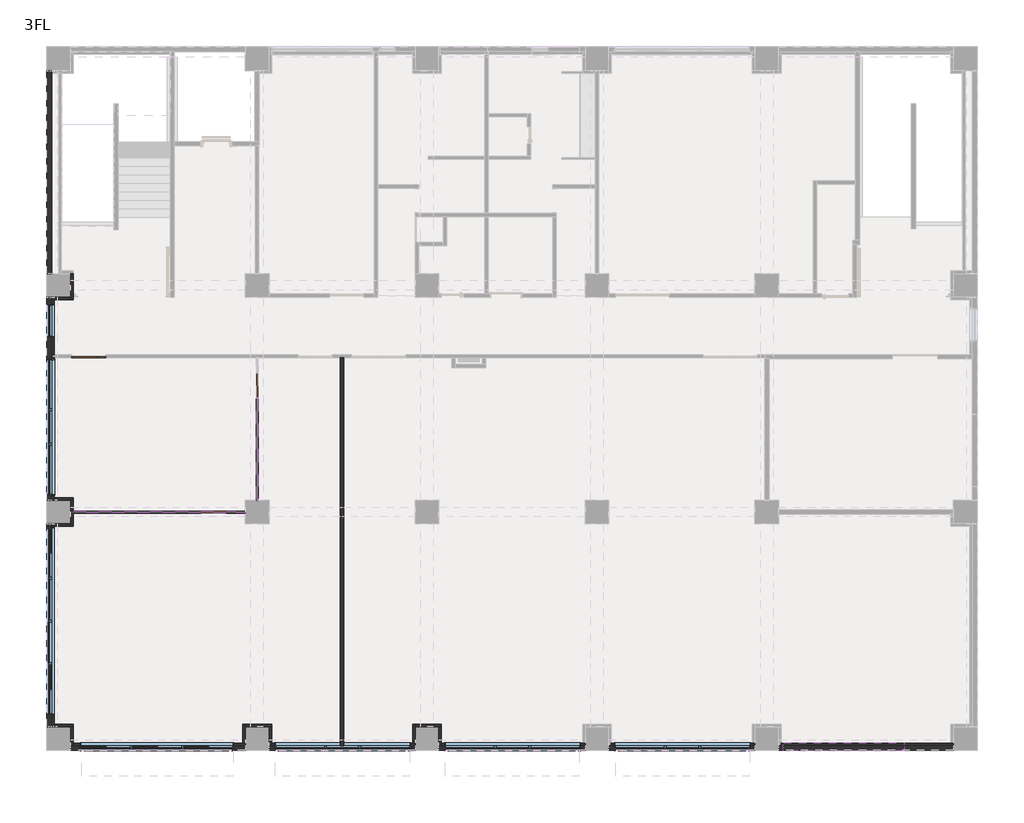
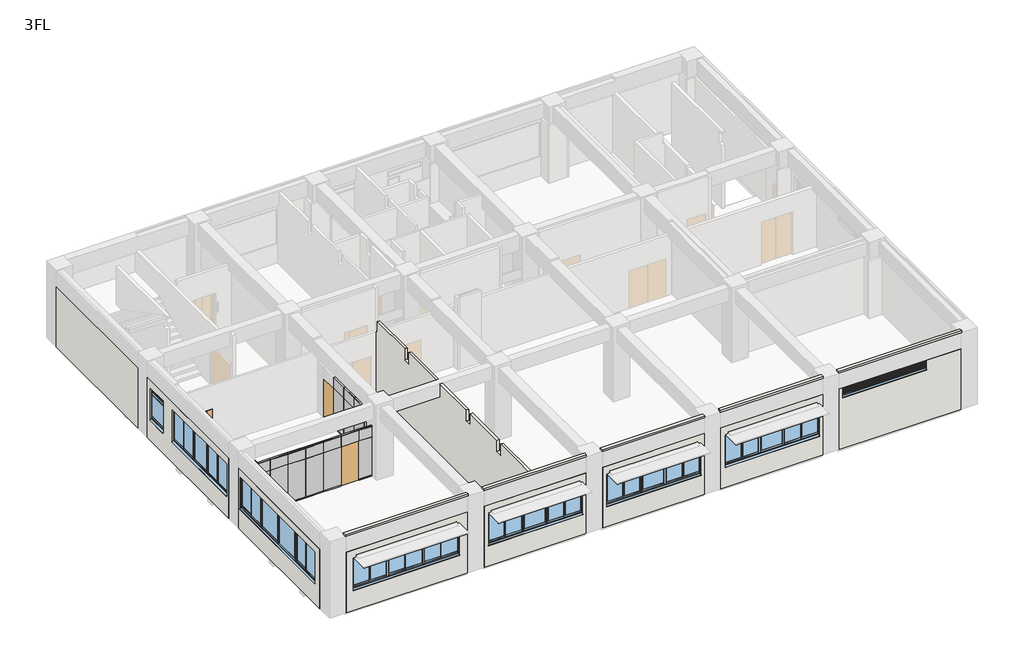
# One storey, part 1 of 6: 23 walls, 21 plates, 8 windows, 3 doors, 2 members.
"""IFC4 building model written with IfcOpenShell, lengths in millimetres."""

from ifc_helpers import new_model, si_unit, frame, origin, place, context, project, spatial, polyline, outline, extrude, faceted_brep, transform, mapped, element, save
from components import door_18b0804b, pt1_1e1990d0, pt7_9d475353, member_b4131282, member_8fee23aa, plate_bac15c8e, plate_f3b27fee, plate_b9e99dd6, plate_7cd72466, plate_84f50978, plate_53a28b3e, ag_02_89f51cda, aw1_359d20a0, aw2_52e0dac3, aw3_6590dba5, aw6a_3e550bbd

model = new_model("IFC4")

# Units and contexts
model_context = context("Model", 3, world=origin())
ifc_project = project(units=[si_unit("LENGTHUNIT", "METRE", prefix="MILLI")], contexts=[model_context])

# Site, building, storey
site = spatial("IfcSite", under=ifc_project)
building = spatial("IfcBuilding", under=site)
storey = spatial("IfcBuildingStorey", under=building, Name="3FL", Elevation=8200.0)

# Doors
placement = place(None, origin())
door_shape = door_18b0804b(model_context)
element("IfcDoor", 1, ObjectType="営_親子扉 : LD2 1200*2000", at=placement, inside=storey, context=model_context, shape_type="MappedRepresentation", body=[
    mapped(door_shape, transform((1055.0, 13500.0, 8200.0), x_axis=(-1.0, 0.0, 0.0), y_axis=(0.0, -1.0, 0.0), z_axis=(0.0, 0.0, 1.0))),
])
pt1_shape = pt1_1e1990d0(model_context)
element("IfcDoor", 2, ObjectType="営_パーティションドア : PT6", at=placement, inside=storey, context=model_context, shape_type="MappedRepresentation", body=[
    mapped(pt1_shape, transform((5460.0000003, 8000.0, 8200.0), x_axis=(-1.0, 0.0, 0.0), y_axis=(0.0, -1.0, 0.0), z_axis=(0.0, 0.0, 1.0))),
])
pt7_shape = pt7_9d475353(model_context)
element("IfcDoor", 3, ObjectType="営_パーティションドア : PT7", at=placement, inside=storey, context=model_context, shape_type="MappedRepresentation", body=[
    mapped(pt7_shape, transform((7000.0, 12460.0000003, 8200.0), x_axis=(0.0, -1.0, 0.0), y_axis=(1.0, 0.0, 0.0), z_axis=(0.0, 0.0, 1.0))),
])

# Members
member_shape = member_b4131282(model_context)
element("IfcMember", 4, ObjectType="長方形マリオン : 70*70", at=placement, inside=storey, context=model_context, shape_type="MappedRepresentation", body=[
    mapped(member_shape, transform((7000.0, 8420.0, 10300.0), x_axis=(0.0, -1.0, 0.0), y_axis=(1.0, 0.0, 0.0), z_axis=(0.0, 0.0, 1.0))),
])
member_2_shape = member_8fee23aa(model_context)
element("IfcMember", 5, ObjectType="長方形マリオン : 70*70", at=placement, inside=storey, context=model_context, shape_type="MappedRepresentation", body=[
    mapped(member_2_shape, transform((7000.0, 8420.0, 10900.0), x_axis=(0.0, -1.0, 0.0), y_axis=(1.0, 0.0, 0.0), z_axis=(0.0, 0.0, 1.0))),
])

# Plates
plate_shape = plate_bac15c8e(model_context)
element("IfcPlate", 6, ObjectType="営_パーティションパネル_下部 : パーティションパネル_下部", at=placement, inside=storey, context=model_context, shape_type="MappedRepresentation", body=[
    mapped(plate_shape, transform((6245.0000002, 8000.0, 8200.0), x_axis=(1.0, 0.0, 0.0), y_axis=(0.0, 1.0, 0.0), z_axis=(0.0, 0.0, 1.0))),
])
plate_2_shape = plate_f3b27fee(model_context)
element("IfcPlate", 7, ObjectType="営_パーティションパネル_上部 : パーティションパネル_上部", at=placement, inside=storey, context=model_context, shape_type="MappedRepresentation", body=[
    mapped(plate_2_shape, transform((6245.0000002, 8000.0, 10300.0), x_axis=(1.0, 0.0, 0.0), y_axis=(0.0, 1.0, 0.0), z_axis=(0.0, 0.0, 1.0))),
])
plate_3_shape = plate_b9e99dd6(model_context)
element("IfcPlate", 8, ObjectType="営_パーティションパネル_下部 : パーティションパネル_下部", at=placement, inside=storey, context=model_context, shape_type="MappedRepresentation", body=[
    mapped(plate_3_shape, transform((7000.0, 8900.0000002, 8200.0), x_axis=(0.0, 1.0, 0.0), y_axis=(-1.0, 0.0, 0.0), z_axis=(0.0, 0.0, 1.0))),
])
plate_4_shape = plate_7cd72466(model_context)
element("IfcPlate", 9, ObjectType="営_パーティションパネル_上部 : パーティションパネル_上部", at=placement, inside=storey, context=model_context, shape_type="MappedRepresentation", body=[
    mapped(plate_4_shape, transform((7000.0, 8900.0000002, 10300.0), x_axis=(0.0, 1.0, 0.0), y_axis=(-1.0, 0.0, 0.0), z_axis=(0.0, 0.0, 1.0))),
])
plate_5_shape = plate_84f50978(model_context)
element("IfcPlate", 10, ObjectType="営_パーティションパネル_下部 : パーティションパネル_下部", at=placement, inside=storey, context=model_context, shape_type="MappedRepresentation", body=[
    mapped(plate_5_shape, transform((960.0000002, 8000.0, 8200.0), x_axis=(1.0, 0.0, 0.0), y_axis=(0.0, 1.0, 0.0), z_axis=(0.0, 0.0, 1.0))),
])
element("IfcPlate", 11, ObjectType="営_パーティションパネル_下部 : パーティションパネル_下部", at=placement, inside=storey, context=model_context, shape_type="MappedRepresentation", body=[
    mapped(plate_5_shape, transform((1860.0000003, 8000.0, 8200.0), x_axis=(1.0, 0.0, 0.0), y_axis=(0.0, 1.0, 0.0), z_axis=(0.0, 0.0, 1.0))),
])
element("IfcPlate", 12, ObjectType="営_パーティションパネル_下部 : パーティションパネル_下部", at=placement, inside=storey, context=model_context, shape_type="MappedRepresentation", body=[
    mapped(plate_5_shape, transform((2760.0000003, 8000.0, 8200.0), x_axis=(1.0, 0.0, 0.0), y_axis=(0.0, 1.0, 0.0), z_axis=(0.0, 0.0, 1.0))),
])
element("IfcPlate", 13, ObjectType="営_パーティションパネル_下部 : パーティションパネル_下部", at=placement, inside=storey, context=model_context, shape_type="MappedRepresentation", body=[
    mapped(plate_5_shape, transform((3660.0000003, 8000.0, 8200.0), x_axis=(1.0, 0.0, 0.0), y_axis=(0.0, 1.0, 0.0), z_axis=(0.0, 0.0, 1.0))),
])
element("IfcPlate", 14, ObjectType="営_パーティションパネル_下部 : パーティションパネル_下部", at=placement, inside=storey, context=model_context, shape_type="MappedRepresentation", body=[
    mapped(plate_5_shape, transform((4560.0000003, 8000.0, 8200.0), x_axis=(1.0, 0.0, 0.0), y_axis=(0.0, 1.0, 0.0), z_axis=(0.0, 0.0, 1.0))),
])
element("IfcPlate", 15, ObjectType="営_パーティションパネル_下部 : パーティションパネル_下部", at=placement, inside=storey, context=model_context, shape_type="MappedRepresentation", body=[
    mapped(plate_5_shape, transform((7000.0, 9760.0000003, 8200.0), x_axis=(0.0, 1.0, 0.0), y_axis=(-1.0, 0.0, 0.0), z_axis=(0.0, 0.0, 1.0))),
])
element("IfcPlate", 16, ObjectType="営_パーティションパネル_下部 : パーティションパネル_下部", at=placement, inside=storey, context=model_context, shape_type="MappedRepresentation", body=[
    mapped(plate_5_shape, transform((7000.0, 10660.0000003, 8200.0), x_axis=(0.0, 1.0, 0.0), y_axis=(-1.0, 0.0, 0.0), z_axis=(0.0, 0.0, 1.0))),
])
element("IfcPlate", 17, ObjectType="営_パーティションパネル_下部 : パーティションパネル_下部", at=placement, inside=storey, context=model_context, shape_type="MappedRepresentation", body=[
    mapped(plate_5_shape, transform((7000.0, 11560.0000003, 8200.0), x_axis=(0.0, 1.0, 0.0), y_axis=(-1.0, 0.0, 0.0), z_axis=(0.0, 0.0, 1.0))),
])
plate_6_shape = plate_53a28b3e(model_context)
element("IfcPlate", 18, ObjectType="営_パーティションパネル_上部 : パーティションパネル_上部", at=placement, inside=storey, context=model_context, shape_type="MappedRepresentation", body=[
    mapped(plate_6_shape, transform((960.0000002, 8000.0, 10300.0), x_axis=(1.0, 0.0, 0.0), y_axis=(0.0, 1.0, 0.0), z_axis=(0.0, 0.0, 1.0))),
])
element("IfcPlate", 19, ObjectType="営_パーティションパネル_上部 : パーティションパネル_上部", at=placement, inside=storey, context=model_context, shape_type="MappedRepresentation", body=[
    mapped(plate_6_shape, transform((1860.0000003, 8000.0, 10300.0), x_axis=(1.0, 0.0, 0.0), y_axis=(0.0, 1.0, 0.0), z_axis=(0.0, 0.0, 1.0))),
])
element("IfcPlate", 20, ObjectType="営_パーティションパネル_上部 : パーティションパネル_上部", at=placement, inside=storey, context=model_context, shape_type="MappedRepresentation", body=[
    mapped(plate_6_shape, transform((2760.0000003, 8000.0, 10300.0), x_axis=(1.0, 0.0, 0.0), y_axis=(0.0, 1.0, 0.0), z_axis=(0.0, 0.0, 1.0))),
])
element("IfcPlate", 21, ObjectType="営_パーティションパネル_上部 : パーティションパネル_上部", at=placement, inside=storey, context=model_context, shape_type="MappedRepresentation", body=[
    mapped(plate_6_shape, transform((3660.0000003, 8000.0, 10300.0), x_axis=(1.0, 0.0, 0.0), y_axis=(0.0, 1.0, 0.0), z_axis=(0.0, 0.0, 1.0))),
])
element("IfcPlate", 22, ObjectType="営_パーティションパネル_上部 : パーティションパネル_上部", at=placement, inside=storey, context=model_context, shape_type="MappedRepresentation", body=[
    mapped(plate_6_shape, transform((4560.0000003, 8000.0, 10300.0), x_axis=(1.0, 0.0, 0.0), y_axis=(0.0, 1.0, 0.0), z_axis=(0.0, 0.0, 1.0))),
])
element("IfcPlate", 23, ObjectType="営_パーティションパネル_上部 : パーティションパネル_上部", at=placement, inside=storey, context=model_context, shape_type="MappedRepresentation", body=[
    mapped(plate_6_shape, transform((5460.0000003, 8000.0, 10300.0), x_axis=(1.0, 0.0, 0.0), y_axis=(0.0, 1.0, 0.0), z_axis=(0.0, 0.0, 1.0))),
])
element("IfcPlate", 24, ObjectType="営_パーティションパネル_上部 : パーティションパネル_上部", at=placement, inside=storey, context=model_context, shape_type="MappedRepresentation", body=[
    mapped(plate_6_shape, transform((7000.0, 9760.0000003, 10300.0), x_axis=(0.0, 1.0, 0.0), y_axis=(-1.0, 0.0, 0.0), z_axis=(0.0, 0.0, 1.0))),
])
element("IfcPlate", 25, ObjectType="営_パーティションパネル_上部 : パーティションパネル_上部", at=placement, inside=storey, context=model_context, shape_type="MappedRepresentation", body=[
    mapped(plate_6_shape, transform((7000.0, 10660.0000003, 10300.0), x_axis=(0.0, 1.0, 0.0), y_axis=(-1.0, 0.0, 0.0), z_axis=(0.0, 0.0, 1.0))),
])
element("IfcPlate", 26, ObjectType="営_パーティションパネル_上部 : パーティションパネル_上部", at=placement, inside=storey, context=model_context, shape_type="MappedRepresentation", body=[
    mapped(plate_6_shape, transform((7000.0, 11560.0000003, 10300.0), x_axis=(0.0, 1.0, 0.0), y_axis=(-1.0, 0.0, 0.0), z_axis=(0.0, 0.0, 1.0))),
])

# Walls
element("IfcWall", 27, ObjectType="(外壁)RC150+20", at=placement, inside=storey, context=model_context, shape_type="Brep", body=[
    faceted_brep([(-250.0, 7580.0, 11300.0), (-250.0, 420.0, 11300.0), (-250.0, 420.0, 8100.0), (-250.0, 7580.0, 8100.0), (-250.0, 7465.0, 10920.0), (-250.0, 7465.0, 9265.0), (-250.0, 835.0, 9265.0), (-250.0, 835.0, 10920.0), (-420.0, 420.0, 11300.0), (-420.0, 7580.0, 11300.0), (-420.0, 7580.0, 8100.0), (-420.0, 420.0, 8100.0), (-420.0, 865.0, 9175.0), (-420.0, 7435.0, 9175.0), (-420.0, 7435.0, 10895.0), (-420.0, 865.0, 10895.0), (-335.0, 420.0, 8100.0), (-335.0, 7580.0, 8100.0), (-260.0, 7465.0, 10920.0), (-260.0, 7465.0, 9265.0), (-260.0, 835.0, 9265.0), (-260.0, 835.0, 10920.0), (-260.0, 7455.0, 9265.0), (-260.0, 845.0, 9265.0), (-260.0, 845.0, 10915.0), (-260.0, 7455.0, 10915.0), (-360.0, 7455.0, 10915.0), (-360.0, 7455.0, 9182.5), (-260.0, 7455.0, 9195.0), (-260.0, 845.0, 9195.0), (-360.0, 845.0, 9182.5), (-360.0, 845.0, 10915.0), (-360.0, 7435.0, 9182.5), (-360.0, 865.0, 9182.5), (-360.0, 865.0, 10895.0), (-360.0, 7435.0, 10895.0)], [[[0, 1, 2, 3], [4, 5, 6, 7]], [[8, 9, 10, 11], [12, 13, 14, 15]], [[2, 16, 11, 10, 17, 3]], [[18, 19, 5, 4]], [[20, 21, 7, 6]], [[5, 19, 22, 23, 20, 6]], [[19, 18, 21, 20, 23, 24, 25, 22]], [[18, 4, 7, 21]], [[22, 25, 26, 27, 28]], [[24, 23, 29, 30, 31]], [[28, 27, 32, 13, 12, 33, 30, 29]], [[27, 26, 31, 30, 33, 34, 35, 32]], [[25, 24, 31, 26]], [[23, 22, 28, 29]], [[13, 32, 35, 14]], [[33, 12, 15, 34]], [[35, 34, 15, 14]], [[11, 16, 2, 1, 8]], [[3, 17, 10, 9, 0]], [[1, 0, 9, 8]]]),
    faceted_brep([(-250.0, 15580.0, 11300.0), (-250.0, 8420.0, 11300.0), (-250.0, 8420.0, 8100.0), (-250.0, 15580.0, 8100.0), (-250.0, 13410.0, 10920.0), (-250.0, 13410.0, 9265.0), (-250.0, 8590.0, 9265.0), (-250.0, 8590.0, 10920.0), (-250.0, 15345.0, 10920.0), (-250.0, 15345.0, 9265.0), (-250.0, 14165.0, 9265.0), (-250.0, 14165.0, 10920.0), (-420.0, 8420.0, 11300.0), (-420.0, 15580.0, 11300.0), (-420.0, 15580.0, 8100.0), (-420.0, 8420.0, 8100.0), (-420.0, 8620.0, 9175.0), (-420.0, 13380.0, 9175.0), (-420.0, 13380.0, 10895.0), (-420.0, 8620.0, 10895.0), (-420.0, 14195.0, 9175.0), (-420.0, 15315.0, 9175.0), (-420.0, 15315.0, 10895.0), (-420.0, 14195.0, 10895.0), (-335.0, 8420.0, 8100.0), (-325.0, 15580.0, 8100.0), (-260.0, 13410.0, 10920.0), (-260.0, 13410.0, 9265.0), (-260.0, 8590.0, 9265.0), (-260.0, 8590.0, 10920.0), (-260.0, 13400.0, 9265.0), (-260.0, 8600.0, 9265.0), (-260.0, 8600.0, 10915.0), (-260.0, 13400.0, 10915.0), (-360.0, 13400.0, 10915.0), (-360.0, 13400.0, 9182.5), (-260.0, 13400.0, 9195.0), (-260.0, 8600.0, 9195.0), (-360.0, 8600.0, 9182.5), (-360.0, 8600.0, 10915.0), (-360.0, 13380.0, 9182.5), (-360.0, 8620.0, 9182.5), (-360.0, 8620.0, 10895.0), (-360.0, 13380.0, 10895.0), (-260.0, 15345.0, 10920.0), (-260.0, 15345.0, 9265.0), (-260.0, 14165.0, 9265.0), (-260.0, 14165.0, 10920.0), (-260.0, 15335.0, 9265.0), (-260.0, 14175.0, 9265.0), (-260.0, 14175.0, 10915.0), (-260.0, 15335.0, 10915.0), (-360.0, 15335.0, 10915.0), (-360.0, 15335.0, 9182.5), (-260.0, 15335.0, 9195.0), (-260.0, 14175.0, 9195.0), (-360.0, 14175.0, 9182.5), (-360.0, 14175.0, 10915.0), (-360.0, 15315.0, 9182.5), (-360.0, 14195.0, 9182.5), (-360.0, 14195.0, 10895.0), (-360.0, 15315.0, 10895.0)], [[[0, 1, 2, 3], [4, 5, 6, 7], [8, 9, 10, 11]], [[12, 13, 14, 15], [16, 17, 18, 19], [20, 21, 22, 23]], [[2, 24, 15, 14, 25, 3]], [[26, 27, 5, 4]], [[28, 29, 7, 6]], [[5, 27, 30, 31, 28, 6]], [[27, 26, 29, 28, 31, 32, 33, 30]], [[26, 4, 7, 29]], [[30, 33, 34, 35, 36]], [[32, 31, 37, 38, 39]], [[36, 35, 40, 17, 16, 41, 38, 37]], [[35, 34, 39, 38, 41, 42, 43, 40]], [[33, 32, 39, 34]], [[31, 30, 36, 37]], [[17, 40, 43, 18]], [[41, 16, 19, 42]], [[43, 42, 19, 18]], [[44, 45, 9, 8]], [[46, 47, 11, 10]], [[9, 45, 48, 49, 46, 10]], [[45, 44, 47, 46, 49, 50, 51, 48]], [[44, 8, 11, 47]], [[48, 51, 52, 53, 54]], [[50, 49, 55, 56, 57]], [[54, 53, 58, 21, 20, 59, 56, 55]], [[53, 52, 57, 56, 59, 60, 61, 58]], [[51, 50, 57, 52]], [[49, 48, 54, 55]], [[21, 58, 61, 22]], [[59, 20, 23, 60]], [[61, 60, 23, 22]], [[15, 24, 2, 1, 12]], [[3, 25, 14, 13, 0]], [[1, 0, 13, 12]]]),
    faceted_brep([(-250.0, 16420.0, 8100.0), (-250.0, 23580.0, 8100.0), (-250.0, 23580.0, 11300.0), (-250.0, 16420.0, 11300.0), (-420.0, 23580.0, 8100.0), (-420.0, 16420.0, 8100.0), (-420.0, 16420.0, 11300.0), (-420.0, 23580.0, 11300.0), (-325.0, 16420.0, 8100.0), (-325.0, 23580.0, 8100.0)], [[[0, 1, 2, 3]], [[4, 5, 6, 7]], [[0, 8, 5, 4, 9, 1]], [[5, 8, 0, 3, 6]], [[1, 9, 4, 7, 2]], [[3, 2, 7, 6]]]),
])
element("IfcWall", 28, ObjectType="(外壁)RC150+20", at=placement, inside=storey, context=model_context, shape_type="Brep", body=[
    faceted_brep([(420.0, -250.0, 11350.0), (6580.0, -250.0, 11350.0), (6580.0, -250.0, 8100.0), (420.0, -250.0, 8100.0), (752.5, -250.0, 10920.0), (752.5, -250.0, 9265.0), (6177.5, -250.0, 9265.0), (6177.5, -250.0, 10920.0), (6580.0, -420.0, 11350.0), (420.0, -420.0, 11350.0), (420.0, -420.0, 8100.0), (6580.0, -420.0, 8100.0), (6147.5, -420.0, 9175.0), (782.5, -420.0, 9175.0), (782.5, -420.0, 10895.0), (6147.5, -420.0, 10895.0), (6580.0, -325.0, 8100.0), (420.0, -325.0, 8100.0), (752.5, -260.0, 10920.0), (752.5, -260.0, 9265.0), (6177.5, -260.0, 9265.0), (6177.5, -260.0, 10920.0), (762.5, -260.0, 9265.0), (6167.5, -260.0, 9265.0), (6167.5, -260.0, 10915.0), (762.5, -260.0, 10915.0), (762.5, -360.0, 10915.0), (762.5, -360.0, 9182.5), (762.5, -260.0, 9195.0), (6167.5, -260.0, 9195.0), (6167.5, -360.0, 9182.5), (6167.5, -360.0, 10915.0), (782.5, -360.0, 9182.5), (6147.5, -360.0, 9182.5), (6147.5, -360.0, 10895.0), (782.5, -360.0, 10895.0)], [[[0, 1, 2, 3], [4, 5, 6, 7]], [[8, 9, 10, 11], [12, 13, 14, 15]], [[2, 16, 11, 10, 17, 3]], [[18, 19, 5, 4]], [[20, 21, 7, 6]], [[5, 19, 22, 23, 20, 6]], [[19, 18, 21, 20, 23, 24, 25, 22]], [[18, 4, 7, 21]], [[22, 25, 26, 27, 28]], [[24, 23, 29, 30, 31]], [[28, 27, 32, 13, 12, 33, 30, 29]], [[27, 26, 31, 30, 33, 34, 35, 32]], [[25, 24, 31, 26]], [[23, 22, 28, 29]], [[13, 32, 35, 14]], [[33, 12, 15, 34]], [[35, 34, 15, 14]], [[11, 16, 2, 1, 8]], [[3, 17, 10, 9, 0]], [[1, 0, 9, 8]]]),
    faceted_brep([(7420.0, -250.0, 11350.0), (12580.0, -250.0, 11350.0), (12580.0, -250.0, 8100.0), (7420.0, -250.0, 8100.0), (7610.0, -250.0, 10920.0), (7610.0, -250.0, 9265.0), (12430.0, -250.0, 9265.0), (12430.0, -250.0, 10920.0), (12580.0, -420.0, 11350.0), (7420.0, -420.0, 11350.0), (7420.0, -420.0, 8100.0), (12580.0, -420.0, 8100.0), (12400.0, -420.0, 9175.0), (7640.0, -420.0, 9175.0), (7640.0, -420.0, 10895.0), (12400.0, -420.0, 10895.0), (7420.0, -325.0, 8100.0), (12580.0, -325.0, 8100.0), (7610.0, -260.0, 10920.0), (7610.0, -260.0, 9265.0), (12430.0, -260.0, 9265.0), (12430.0, -260.0, 10920.0), (7620.0, -260.0, 9265.0), (12420.0, -260.0, 9265.0), (12420.0, -260.0, 10915.0), (7620.0, -260.0, 10915.0), (7620.0, -360.0, 10915.0), (7620.0, -360.0, 9182.5), (7620.0, -260.0, 9195.0), (12420.0, -260.0, 9195.0), (12420.0, -360.0, 9182.5), (12420.0, -360.0, 10915.0), (7640.0, -360.0, 9182.5), (12400.0, -360.0, 9182.5), (12400.0, -360.0, 10895.0), (7640.0, -360.0, 10895.0)], [[[0, 1, 2, 3], [4, 5, 6, 7]], [[8, 9, 10, 11], [12, 13, 14, 15]], [[10, 16, 3, 2, 17, 11]], [[3, 16, 10, 9, 0]], [[11, 17, 2, 1, 8]], [[1, 0, 9, 8]], [[18, 19, 5, 4]], [[20, 21, 7, 6]], [[5, 19, 22, 23, 20, 6]], [[19, 18, 21, 20, 23, 24, 25, 22]], [[18, 4, 7, 21]], [[22, 25, 26, 27, 28]], [[24, 23, 29, 30, 31]], [[28, 27, 32, 13, 12, 33, 30, 29]], [[27, 26, 31, 30, 33, 34, 35, 32]], [[25, 24, 31, 26]], [[23, 22, 28, 29]], [[13, 32, 35, 14]], [[33, 12, 15, 34]], [[35, 34, 15, 14]]]),
    faceted_brep([(13420.0, -250.0, 11350.0), (18580.0, -250.0, 11350.0), (18580.0, -250.0, 8100.0), (13420.0, -250.0, 8100.0), (13610.0, -250.0, 10920.0), (13610.0, -250.0, 9265.0), (18430.0, -250.0, 9265.0), (18430.0, -250.0, 10920.0), (18580.0, -420.0, 11350.0), (13420.0, -420.0, 11350.0), (13420.0, -420.0, 8100.0), (18580.0, -420.0, 8100.0), (18400.0, -420.0, 9175.0), (13640.0, -420.0, 9175.0), (13640.0, -420.0, 10895.0), (18400.0, -420.0, 10895.0), (13420.0, -325.0, 8100.0), (18580.0, -325.0, 8100.0), (13610.0, -260.0, 10920.0), (13610.0, -260.0, 9265.0), (18430.0, -260.0, 9265.0), (18430.0, -260.0, 10920.0), (13620.0, -260.0, 9265.0), (18420.0, -260.0, 9265.0), (18420.0, -260.0, 10915.0), (13620.0, -260.0, 10915.0), (13620.0, -360.0, 10915.0), (13620.0, -360.0, 9182.5), (13620.0, -260.0, 9195.0), (18420.0, -260.0, 9195.0), (18420.0, -360.0, 9182.5), (18420.0, -360.0, 10915.0), (13640.0, -360.0, 9182.5), (18400.0, -360.0, 9182.5), (18400.0, -360.0, 10895.0), (13640.0, -360.0, 10895.0)], [[[0, 1, 2, 3], [4, 5, 6, 7]], [[8, 9, 10, 11], [12, 13, 14, 15]], [[10, 16, 3, 2, 17, 11]], [[3, 16, 10, 9, 0]], [[11, 17, 2, 1, 8]], [[1, 0, 9, 8]], [[18, 19, 5, 4]], [[20, 21, 7, 6]], [[5, 19, 22, 23, 20, 6]], [[19, 18, 21, 20, 23, 24, 25, 22]], [[18, 4, 7, 21]], [[22, 25, 26, 27, 28]], [[24, 23, 29, 30, 31]], [[28, 27, 32, 13, 12, 33, 30, 29]], [[27, 26, 31, 30, 33, 34, 35, 32]], [[25, 24, 31, 26]], [[23, 22, 28, 29]], [[13, 32, 35, 14]], [[33, 12, 15, 34]], [[35, 34, 15, 14]]]),
    faceted_brep([(19420.0, -250.0, 11350.0), (24580.0, -250.0, 11350.0), (24580.0, -250.0, 8100.0), (19420.0, -250.0, 8100.0), (19610.0, -250.0, 10920.0), (19610.0, -250.0, 9265.0), (24430.0, -250.0, 9265.0), (24430.0, -250.0, 10920.0), (24580.0, -420.0, 11350.0), (19420.0, -420.0, 11350.0), (19420.0, -420.0, 8100.0), (24580.0, -420.0, 8100.0), (24400.0, -420.0, 9175.0), (19640.0, -420.0, 9175.0), (19640.0, -420.0, 10895.0), (24400.0, -420.0, 10895.0), (19420.0, -325.0, 8100.0), (24580.0, -325.0, 8100.0), (19610.0, -260.0, 10920.0), (19610.0, -260.0, 9265.0), (24430.0, -260.0, 9265.0), (24430.0, -260.0, 10920.0), (19620.0, -260.0, 9265.0), (24420.0, -260.0, 9265.0), (24420.0, -260.0, 10915.0), (19620.0, -260.0, 10915.0), (19620.0, -360.0, 10915.0), (19620.0, -360.0, 9182.5), (19620.0, -260.0, 9195.0), (24420.0, -260.0, 9195.0), (24420.0, -360.0, 9182.5), (24420.0, -360.0, 10915.0), (19640.0, -360.0, 9182.5), (24400.0, -360.0, 9182.5), (24400.0, -360.0, 10895.0), (19640.0, -360.0, 10895.0)], [[[0, 1, 2, 3], [4, 5, 6, 7]], [[8, 9, 10, 11], [12, 13, 14, 15]], [[10, 16, 3, 2, 17, 11]], [[18, 19, 5, 4]], [[20, 21, 7, 6]], [[5, 19, 22, 23, 20, 6]], [[19, 18, 21, 20, 23, 24, 25, 22]], [[18, 4, 7, 21]], [[22, 25, 26, 27, 28]], [[24, 23, 29, 30, 31]], [[28, 27, 32, 13, 12, 33, 30, 29]], [[27, 26, 31, 30, 33, 34, 35, 32]], [[25, 24, 31, 26]], [[23, 22, 28, 29]], [[13, 32, 35, 14]], [[33, 12, 15, 34]], [[35, 34, 15, 14]], [[3, 16, 10, 9, 0]], [[11, 17, 2, 1, 8]], [[1, 0, 9, 8]]]),
    faceted_brep([(25420.0, -250.0, 11350.0), (31580.0, -250.0, 11350.0), (31580.0, -250.0, 8100.0), (25420.0, -250.0, 8100.0), (25572.7, -250.0, 11335.0), (25572.7, -250.0, 10915.0), (29852.7, -250.0, 10915.0), (29852.7, -250.0, 11335.0), (31580.0, -420.0, 11350.0), (25420.0, -420.0, 11350.0), (25420.0, -420.0, 8100.0), (31580.0, -420.0, 8100.0), (29822.7, -420.0, 10825.0), (25602.7, -420.0, 10825.0), (25602.7, -420.0, 11310.0), (29822.7, -420.0, 11310.0), (25420.0, -325.0, 8100.0), (31580.0, -325.0, 8100.0), (25572.7, -290.0, 11335.0), (25572.7, -290.0, 10915.0), (29852.7, -290.0, 10915.0), (29852.7, -290.0, 11335.0), (25582.7, -290.0, 10915.0), (29842.7, -290.0, 10915.0), (29842.7, -290.0, 11330.0), (25582.7, -290.0, 11330.0), (25582.7, -360.0, 11330.0), (25582.7, -360.0, 10834.2307692), (25582.7, -290.0, 10845.0), (29842.7, -290.0, 10845.0), (29842.7, -360.0, 10834.2307692), (29842.7, -360.0, 11330.0), (25602.7, -360.0, 10834.2307692), (29822.7, -360.0, 10834.2307692), (29822.7, -360.0, 11310.0), (25602.7, -360.0, 11310.0)], [[[0, 1, 2, 3], [4, 5, 6, 7]], [[8, 9, 10, 11], [12, 13, 14, 15]], [[10, 16, 3, 2, 17, 11]], [[3, 16, 10, 9, 0]], [[11, 17, 2, 1, 8]], [[1, 0, 9, 8]], [[18, 19, 5, 4]], [[20, 21, 7, 6]], [[5, 19, 22, 23, 20, 6]], [[19, 18, 21, 20, 23, 24, 25, 22]], [[18, 4, 7, 21]], [[22, 25, 26, 27, 28]], [[24, 23, 29, 30, 31]], [[28, 27, 32, 13, 12, 33, 30, 29]], [[27, 26, 31, 30, 33, 34, 35, 32]], [[25, 24, 31, 26]], [[23, 22, 28, 29]], [[13, 32, 35, 14]], [[33, 12, 15, 34]], [[35, 34, 15, 14]]]),
    faceted_brep([(7395.0, -250.0, 12200.0), (7395.0, -250.0, 12300.0), (12605.0, -250.0, 12300.0), (12605.0, -250.0, 12200.0), (7395.0, -420.0, 12300.0), (7395.0, -420.0, 12200.0), (7420.0, -420.0, 12200.0), (12580.0, -420.0, 12200.0), (12605.0, -420.0, 12200.0), (12605.0, -420.0, 12300.0), (7395.0, -325.0, 12200.0), (12605.0, -325.0, 12200.0)], [[[0, 1, 2, 3]], [[4, 5, 6, 7, 8, 9]], [[1, 4, 9, 2]], [[5, 10, 0, 3, 11, 8, 7, 6]], [[1, 0, 10, 5, 4]], [[3, 2, 9, 8, 11]]]),
    faceted_brep([(6605.0, -250.0, 12300.0), (6605.0, -250.0, 12200.0), (370.0, -250.0, 12200.0), (370.0, -250.0, 12300.0), (6605.0, -420.0, 12200.0), (6605.0, -420.0, 12300.0), (370.0, -420.0, 12300.0), (370.0, -420.0, 12200.0), (420.0, -420.0, 12200.0), (6580.0, -420.0, 12200.0), (6605.0, -325.0, 12200.0)], [[[0, 1, 2, 3]], [[4, 5, 6, 7, 8, 9]], [[5, 0, 3, 6]], [[1, 10, 4, 9, 8, 7, 2]], [[1, 0, 5, 4, 10]], [[3, 2, 7, 6]]]),
    faceted_brep([(13395.0, -250.0, 12200.0), (13395.0, -250.0, 12300.0), (18605.0, -250.0, 12300.0), (18605.0, -250.0, 12200.0), (13395.0, -420.0, 12300.0), (13395.0, -420.0, 12200.0), (13420.0, -420.0, 12200.0), (18580.0, -420.0, 12200.0), (18605.0, -420.0, 12200.0), (18605.0, -420.0, 12300.0), (13395.0, -325.0, 12200.0), (18605.0, -325.0, 12200.0)], [[[0, 1, 2, 3]], [[4, 5, 6, 7, 8, 9]], [[1, 4, 9, 2]], [[5, 10, 0, 3, 11, 8, 7, 6]], [[1, 0, 10, 5, 4]], [[3, 2, 9, 8, 11]]]),
    faceted_brep([(19395.0, -250.0, 12200.0), (19395.0, -250.0, 12300.0), (24605.0, -250.0, 12300.0), (24605.0, -250.0, 12200.0), (19395.0, -420.0, 12300.0), (19395.0, -420.0, 12200.0), (19420.0, -420.0, 12200.0), (24580.0, -420.0, 12200.0), (24605.0, -420.0, 12200.0), (24605.0, -420.0, 12300.0), (19395.0, -325.0, 12200.0), (24605.0, -325.0, 12200.0)], [[[0, 1, 2, 3]], [[4, 5, 6, 7, 8, 9]], [[1, 4, 9, 2]], [[5, 10, 0, 3, 11, 8, 7, 6]], [[1, 0, 10, 5, 4]], [[3, 2, 9, 8, 11]]]),
    faceted_brep([(25395.0, -250.0, 12200.0), (25395.0, -250.0, 12300.0), (31630.0, -250.0, 12300.0), (31630.0, -250.0, 12200.0), (25395.0, -420.0, 12300.0), (25395.0, -420.0, 12200.0), (25420.0, -420.0, 12200.0), (31580.0, -420.0, 12200.0), (31630.0, -420.0, 12200.0), (31630.0, -420.0, 12300.0), (25395.0, -325.0, 12200.0)], [[[0, 1, 2, 3]], [[4, 5, 6, 7, 8, 9]], [[1, 4, 9, 2]], [[5, 10, 0, 3, 8, 7, 6]], [[1, 0, 10, 5, 4]], [[3, 2, 9, 8]]]),
])
element("IfcWall", 29, ObjectType="(内壁)W3", at=placement, inside=storey, context=model_context, shape_type="SweptSolid", body=[
    extrude(outline(polyline([(13440.0, 8200.0), (-250.0, 8200.0), (-250.0, 11350.0), (-50.0, 11350.0), (-50.0, 12050.0), (2485.0, 12050.0), (2485.0, 11450.0), (2835.0, 11450.0), (2835.0, 12050.0), (5155.0, 12050.0), (5155.0, 11450.0), (5505.0, 11450.0), (5505.0, 12050.0), (7825.0, 12050.0), (7825.0, 11350.0), (8175.0, 11350.0), (8175.0, 12050.0), (10575.0, 12050.0), (10575.0, 11450.0), (10925.0, 11450.0), (10925.0, 12050.0), (13325.0, 12050.0), (13325.0, 11450.0), (13440.0, 11450.0), (13440.0, 8200.0)])), frame((9940.0, 0.0, 0.0), z_axis=(1.0, 0.0, 0.0), x_axis=(0.0, 1.0, 0.0)), (0.0, 0.0, 1.0), 120.0),
])
element("IfcWall", 30, ObjectType="(内壁)W5", at=placement, inside=storey, context=model_context, shape_type="Brep", body=[
    faceted_brep([(420.0, 16420.0, 8200.0), (420.0, 15580.0, 8200.0), (420.0, 15490.0, 8200.0), (420.0, 15490.0, 11300.0), (420.0, 15580.0, 11300.0), (420.0, 16420.0, 11300.0), (510.0, 16420.0, 8200.0), (510.0, 16420.0, 11300.0), (510.0, 15490.0, 11300.0), (510.0, 15490.0, 8200.0)], [[[0, 1, 2, 3, 4, 5]], [[6, 7, 8, 9]], [[2, 1, 0, 6, 9]], [[5, 4, 3, 8, 7]], [[0, 5, 7, 6]], [[3, 2, 9, 8]]]),
])
element("IfcWall", 31, ObjectType="(内壁)W5", at=placement, inside=storey, context=model_context, shape_type="Brep", body=[
    faceted_brep([(420.0, 15580.0, 8200.0), (-250.0, 15580.0, 8200.0), (-250.0, 15580.0, 11300.0), (420.0, 15580.0, 11300.0), (420.0, 15490.0, 8200.0), (420.0, 15490.0, 11300.0), (-160.0, 15490.0, 11300.0), (-250.0, 15490.0, 11300.0), (-250.0, 15490.0, 8200.0)], [[[0, 1, 2, 3]], [[4, 5, 6, 7, 8]], [[1, 0, 4, 8]], [[3, 2, 7, 6, 5]], [[0, 3, 5, 4]], [[2, 1, 8, 7]]]),
])
element("IfcWall", 32, ObjectType="(内壁)W5", at=placement, inside=storey, context=model_context, shape_type="Brep", body=[
    faceted_brep([(-250.0, 15490.0, 8190.0), (-250.0, 8420.0, 8190.0), (-250.0, 8420.0, 11300.0), (-250.0, 13440.0, 11300.0), (-250.0, 13440.0, 8200.0), (-250.0, 13560.0, 8200.0), (-250.0, 13560.0, 11300.0), (-250.0, 15490.0, 11300.0), (-250.0, 15490.0, 8200.0), (-250.0, 15345.0, 9265.0), (-250.0, 15345.0, 10920.0), (-250.0, 14165.0, 10920.0), (-250.0, 14165.0, 9265.0), (-250.0, 13410.0, 9265.0), (-250.0, 13410.0, 10920.0), (-250.0, 8590.0, 10920.0), (-250.0, 8590.0, 9265.0), (-160.0, 8420.0, 8190.0), (-160.0, 15490.0, 8190.0), (-160.0, 15490.0, 11300.0), (-160.0, 13560.0, 11300.0), (-160.0, 13560.0, 8200.0), (-160.0, 13440.0, 8200.0), (-160.0, 13440.0, 11300.0), (-160.0, 8510.0, 11300.0), (-160.0, 8420.0, 11300.0), (-160.0, 15345.0, 10920.0), (-160.0, 15345.0, 9265.0), (-160.0, 14165.0, 9265.0), (-160.0, 14165.0, 10920.0), (-160.0, 13410.0, 10920.0), (-160.0, 13410.0, 9265.0), (-160.0, 8590.0, 9265.0), (-160.0, 8590.0, 10920.0)], [[[0, 1, 2, 3, 4, 5, 6, 7, 8], [9, 10, 11, 12], [13, 14, 15, 16]], [[17, 18, 19, 20, 21, 22, 23, 24, 25], [26, 27, 28, 29], [30, 31, 32, 33]], [[1, 0, 18, 17]], [[19, 7, 6, 20]], [[2, 25, 24, 23, 3]], [[0, 8, 7, 19, 18]], [[2, 1, 17, 25]], [[26, 10, 9, 27]], [[28, 12, 11, 29]], [[27, 9, 12, 28]], [[10, 26, 29, 11]], [[22, 4, 3, 23]], [[5, 21, 20, 6]], [[4, 22, 21, 5]], [[30, 14, 13, 31]], [[32, 16, 15, 33]], [[16, 32, 31, 13]], [[33, 15, 14, 30]]]),
])
element("IfcWall", 33, ObjectType="(内壁)W5", at=placement, inside=storey, context=model_context, shape_type="Brep", body=[
    faceted_brep([(-160.0, 8420.0, 8100.0), (420.0, 8420.0, 8100.0), (510.0, 8420.0, 8100.0), (510.0, 8420.0, 11300.0), (420.0, 8420.0, 11300.0), (-160.0, 8420.0, 11300.0), (-160.0, 8420.0, 8190.0), (-160.0, 8510.0, 8100.0), (-160.0, 8510.0, 11300.0), (510.0, 8510.0, 11300.0), (510.0, 8510.0, 8100.0)], [[[0, 1, 2, 3, 4, 5, 6]], [[7, 8, 9, 10]], [[2, 1, 0, 7, 10]], [[5, 4, 3, 9, 8]], [[0, 6, 5, 8, 7]], [[3, 2, 10, 9]]]),
])
element("IfcWall", 34, ObjectType="(内壁)W5", at=placement, inside=storey, context=model_context, shape_type="Brep", body=[
    faceted_brep([(420.0, 8420.0, 8100.0), (420.0, 7580.0, 8100.0), (420.0, 7490.0, 8100.0), (420.0, 7490.0, 11300.0), (420.0, 7580.0, 11300.0), (420.0, 8420.0, 11300.0), (510.0, 8420.0, 8100.0), (510.0, 8420.0, 11300.0), (510.0, 7490.0, 11300.0), (510.0, 7490.0, 8100.0)], [[[0, 1, 2, 3, 4, 5]], [[6, 7, 8, 9]], [[2, 1, 0, 6, 9]], [[5, 4, 3, 8, 7]], [[0, 5, 7, 6]], [[3, 2, 9, 8]]]),
])
element("IfcWall", 35, ObjectType="(内壁)W5", at=placement, inside=storey, context=model_context, shape_type="Brep", body=[
    faceted_brep([(420.0, 7580.0, 8100.0), (-250.0, 7580.0, 8100.0), (-250.0, 7580.0, 11300.0), (420.0, 7580.0, 11300.0), (420.0, 7490.0, 8100.0), (420.0, 7490.0, 11300.0), (-250.0, 7490.0, 11300.0), (-250.0, 7490.0, 8100.0), (-160.0, 7490.0, 8100.0)], [[[0, 1, 2, 3]], [[4, 5, 6, 7, 8]], [[1, 0, 4, 8, 7]], [[3, 2, 6, 5]], [[0, 3, 5, 4]], [[2, 1, 7, 6]]]),
])
element("IfcWall", 36, ObjectType="(内壁)W5", at=placement, inside=storey, context=model_context, shape_type="Brep", body=[
    faceted_brep([(-250.0, 7490.0, 8100.0), (-250.0, 420.0, 8100.0), (-250.0, 420.0, 11300.0), (-250.0, 7490.0, 11300.0), (-250.0, 7465.0, 9265.0), (-250.0, 7465.0, 10920.0), (-250.0, 835.0, 10920.0), (-250.0, 835.0, 9265.0), (-160.0, 420.0, 8100.0), (-160.0, 510.0, 8100.0), (-160.0, 7490.0, 8100.0), (-160.0, 7490.0, 11300.0), (-160.0, 510.0, 11300.0), (-160.0, 420.0, 11300.0), (-160.0, 7465.0, 10920.0), (-160.0, 7465.0, 9265.0), (-160.0, 835.0, 9265.0), (-160.0, 835.0, 10920.0)], [[[0, 1, 2, 3], [4, 5, 6, 7]], [[8, 9, 10, 11, 12, 13], [14, 15, 16, 17]], [[1, 0, 10, 9, 8]], [[10, 0, 3, 11]], [[1, 8, 13, 2]], [[14, 5, 4, 15]], [[16, 7, 6, 17]], [[15, 4, 7, 16]], [[5, 14, 17, 6]], [[3, 2, 13, 12, 11]]]),
])
element("IfcWall", 37, ObjectType="(内壁)W5", at=placement, inside=storey, context=model_context, shape_type="Brep", body=[
    faceted_brep([(-160.0, 420.0, 8100.0), (420.0, 420.0, 8100.0), (510.0, 420.0, 8100.0), (510.0, 420.0, 11300.0), (420.0, 420.0, 11300.0), (-160.0, 420.0, 11300.0), (-160.0, 510.0, 8100.0), (-160.0, 510.0, 11300.0), (510.0, 510.0, 11300.0), (510.0, 510.0, 8100.0)], [[[0, 1, 2, 3, 4, 5]], [[6, 7, 8, 9]], [[2, 1, 0, 6, 9]], [[5, 4, 3, 8, 7]], [[0, 5, 7, 6]], [[3, 2, 9, 8]]]),
])
element("IfcWall", 38, ObjectType="(内壁)W5", at=placement, inside=storey, context=model_context, shape_type="Brep", body=[
    faceted_brep([(420.0, 420.0, 8100.0), (420.0, -250.0, 8100.0), (420.0, -250.0, 11300.0), (420.0, 420.0, 11300.0), (510.0, 420.0, 8100.0), (510.0, 420.0, 11300.0), (510.0, -160.0, 11300.0), (510.0, -250.0, 11300.0), (510.0, -250.0, 8100.0), (510.0, -160.0, 8100.0)], [[[0, 1, 2, 3]], [[4, 5, 6, 7, 8, 9]], [[1, 0, 4, 9, 8]], [[3, 2, 7, 6, 5]], [[0, 3, 5, 4]], [[2, 1, 8, 7]]]),
])
element("IfcWall", 39, ObjectType="(内壁)W5", at=placement, inside=storey, context=model_context, shape_type="Brep", body=[
    faceted_brep([(510.0, -250.0, 8100.0), (6580.0, -250.0, 8100.0), (6580.0, -250.0, 11300.0), (510.0, -250.0, 11300.0), (752.5, -250.0, 9265.0), (752.5, -250.0, 10920.0), (6177.5, -250.0, 10920.0), (6177.5, -250.0, 9265.0), (6580.0, -160.0, 8100.0), (6490.0, -160.0, 8100.0), (510.0, -160.0, 8100.0), (510.0, -160.0, 11300.0), (6490.0, -160.0, 11300.0), (6580.0, -160.0, 11300.0), (752.5, -160.0, 10920.0), (752.5, -160.0, 9265.0), (6177.5, -160.0, 9265.0), (6177.5, -160.0, 10920.0)], [[[0, 1, 2, 3], [4, 5, 6, 7]], [[8, 9, 10, 11, 12, 13], [14, 15, 16, 17]], [[1, 0, 10, 9, 8]], [[3, 2, 13, 12, 11]], [[0, 3, 11, 10]], [[2, 1, 8, 13]], [[14, 5, 4, 15]], [[16, 7, 6, 17]], [[15, 4, 7, 16]], [[5, 14, 17, 6]]]),
])
element("IfcWall", 40, ObjectType="(内壁)W5", at=placement, inside=storey, context=model_context, shape_type="Brep", body=[
    faceted_brep([(6580.0, -160.0, 8100.0), (6580.0, 420.0, 8100.0), (6580.0, 510.0, 8100.0), (6580.0, 510.0, 11300.0), (6580.0, 420.0, 11300.0), (6580.0, -160.0, 11300.0), (6490.0, -160.0, 8100.0), (6490.0, -160.0, 11300.0), (6490.0, 510.0, 11300.0), (6490.0, 510.0, 8100.0)], [[[0, 1, 2, 3, 4, 5]], [[6, 7, 8, 9]], [[2, 1, 0, 6, 9]], [[5, 4, 3, 8, 7]], [[0, 5, 7, 6]], [[3, 2, 9, 8]]]),
])
element("IfcWall", 41, ObjectType="(内壁)W5", at=placement, inside=storey, context=model_context, shape_type="Brep", body=[
    faceted_brep([(6580.0, 420.0, 8100.0), (7420.0, 420.0, 8100.0), (7510.0, 420.0, 8100.0), (7510.0, 420.0, 11300.0), (7420.0, 420.0, 11300.0), (6580.0, 420.0, 11300.0), (6580.0, 510.0, 8100.0), (6580.0, 510.0, 11300.0), (7510.0, 510.0, 11300.0), (7510.0, 510.0, 8100.0)], [[[0, 1, 2, 3, 4, 5]], [[6, 7, 8, 9]], [[2, 1, 0, 6, 9]], [[5, 4, 3, 8, 7]], [[0, 5, 7, 6]], [[3, 2, 9, 8]]]),
])
element("IfcWall", 42, ObjectType="(内壁)W5", at=placement, inside=storey, context=model_context, shape_type="Brep", body=[
    faceted_brep([(7420.0, 420.0, 8100.0), (7420.0, -250.0, 8100.0), (7420.0, -250.0, 11300.0), (7420.0, 420.0, 11300.0), (7510.0, 420.0, 8100.0), (7510.0, 420.0, 11300.0), (7510.0, -160.0, 11300.0), (7510.0, -250.0, 11300.0), (7510.0, -250.0, 8100.0), (7510.0, -160.0, 8100.0)], [[[0, 1, 2, 3]], [[4, 5, 6, 7, 8, 9]], [[1, 0, 4, 9, 8]], [[3, 2, 7, 6, 5]], [[0, 3, 5, 4]], [[2, 1, 8, 7]]]),
])
element("IfcWall", 43, ObjectType="(内壁)W5", at=placement, inside=storey, context=model_context, shape_type="Brep", body=[
    faceted_brep([(7510.0, -250.0, 8100.0), (12580.0, -250.0, 8100.0), (12580.0, -250.0, 11300.0), (7510.0, -250.0, 11300.0), (7610.0, -250.0, 9265.0), (7610.0, -250.0, 10920.0), (12430.0, -250.0, 10920.0), (12430.0, -250.0, 9265.0), (12580.0, -160.0, 8100.0), (12490.0, -160.0, 8100.0), (7510.0, -160.0, 8100.0), (7510.0, -160.0, 11300.0), (12490.0, -160.0, 11300.0), (12580.0, -160.0, 11300.0), (7610.0, -160.0, 10920.0), (7610.0, -160.0, 9265.0), (12430.0, -160.0, 9265.0), (12430.0, -160.0, 10920.0)], [[[0, 1, 2, 3], [4, 5, 6, 7]], [[8, 9, 10, 11, 12, 13], [14, 15, 16, 17]], [[1, 0, 10, 9, 8]], [[3, 2, 13, 12, 11]], [[0, 3, 11, 10]], [[2, 1, 8, 13]], [[14, 5, 4, 15]], [[16, 7, 6, 17]], [[15, 4, 7, 16]], [[5, 14, 17, 6]]]),
])
element("IfcWall", 44, ObjectType="(内壁)W5", at=placement, inside=storey, context=model_context, shape_type="Brep", body=[
    faceted_brep([(12580.0, -160.0, 8100.0), (12580.0, 420.0, 8100.0), (12580.0, 510.0, 8100.0), (12580.0, 510.0, 11300.0), (12580.0, 420.0, 11300.0), (12580.0, -160.0, 11300.0), (12490.0, -160.0, 8100.0), (12490.0, -160.0, 11300.0), (12490.0, 510.0, 11300.0), (12490.0, 510.0, 8100.0)], [[[0, 1, 2, 3, 4, 5]], [[6, 7, 8, 9]], [[2, 1, 0, 6, 9]], [[5, 4, 3, 8, 7]], [[0, 5, 7, 6]], [[3, 2, 9, 8]]]),
])
element("IfcWall", 45, ObjectType="(内壁)W5", at=placement, inside=storey, context=model_context, shape_type="Brep", body=[
    faceted_brep([(12580.0, 420.0, 8100.0), (13420.0, 420.0, 8100.0), (13510.0, 420.0, 8100.0), (13510.0, 420.0, 11300.0), (13420.0, 420.0, 11300.0), (12580.0, 420.0, 11300.0), (12580.0, 510.0, 8100.0), (12580.0, 510.0, 11300.0), (13510.0, 510.0, 11300.0), (13510.0, 510.0, 8100.0)], [[[0, 1, 2, 3, 4, 5]], [[6, 7, 8, 9]], [[2, 1, 0, 6, 9]], [[5, 4, 3, 8, 7]], [[0, 5, 7, 6]], [[3, 2, 9, 8]]]),
])
element("IfcWall", 46, ObjectType="(内壁)W5", at=placement, inside=storey, context=model_context, shape_type="Brep", body=[
    faceted_brep([(13420.0, 420.0, 8100.0), (13420.0, -250.0, 8100.0), (13420.0, -250.0, 11300.0), (13420.0, 420.0, 11300.0), (13510.0, 420.0, 8100.0), (13510.0, 420.0, 11300.0), (13510.0, -160.0, 11300.0), (13510.0, -250.0, 11300.0), (13510.0, -250.0, 8100.0), (13510.0, -160.0, 8100.0)], [[[0, 1, 2, 3]], [[4, 5, 6, 7, 8, 9]], [[1, 0, 4, 9, 8]], [[3, 2, 7, 6, 5]], [[0, 3, 5, 4]], [[2, 1, 8, 7]]]),
])
element("IfcWall", 47, ObjectType="(内壁)W5", at=placement, inside=storey, context=model_context, shape_type="Brep", body=[
    faceted_brep([(13510.0, -250.0, 8100.0), (18580.0, -250.0, 8100.0), (18580.0, -250.0, 11300.0), (13510.0, -250.0, 11300.0), (13610.0, -250.0, 9265.0), (13610.0, -250.0, 10920.0), (18430.0, -250.0, 10920.0), (18430.0, -250.0, 9265.0), (18580.0, -160.0, 8100.0), (18490.0, -160.0, 8100.0), (13510.0, -160.0, 8100.0), (13510.0, -160.0, 11300.0), (18490.0, -160.0, 11300.0), (18580.0, -160.0, 11300.0), (13610.0, -160.0, 10920.0), (13610.0, -160.0, 9265.0), (18430.0, -160.0, 9265.0), (18430.0, -160.0, 10920.0)], [[[0, 1, 2, 3], [4, 5, 6, 7]], [[8, 9, 10, 11, 12, 13], [14, 15, 16, 17]], [[1, 0, 10, 9, 8]], [[3, 2, 13, 12, 11]], [[0, 3, 11, 10]], [[2, 1, 8, 13]], [[14, 5, 4, 15]], [[16, 7, 6, 17]], [[15, 4, 7, 16]], [[5, 14, 17, 6]]]),
])
element("IfcWall", 48, ObjectType="(内壁)W5", at=placement, inside=storey, context=model_context, shape_type="Brep", body=[
    faceted_brep([(19510.0, -250.0, 8100.0), (24580.0, -250.0, 8100.0), (24580.0, -250.0, 11300.0), (19510.0, -250.0, 11300.0), (19610.0, -250.0, 9265.0), (19610.0, -250.0, 10920.0), (24430.0, -250.0, 10920.0), (24430.0, -250.0, 9265.0), (24580.0, -160.0, 8100.0), (24490.0, -160.0, 8100.0), (19510.0, -160.0, 8100.0), (19510.0, -160.0, 11300.0), (24490.0, -160.0, 11300.0), (24580.0, -160.0, 11300.0), (19610.0, -160.0, 10920.0), (19610.0, -160.0, 9265.0), (24430.0, -160.0, 9265.0), (24430.0, -160.0, 10920.0)], [[[0, 1, 2, 3], [4, 5, 6, 7]], [[8, 9, 10, 11, 12, 13], [14, 15, 16, 17]], [[1, 0, 10, 9, 8]], [[3, 2, 13, 12, 11]], [[0, 3, 11, 10]], [[2, 1, 8, 13]], [[14, 5, 4, 15]], [[16, 7, 6, 17]], [[15, 4, 7, 16]], [[5, 14, 17, 6]]]),
])
element("IfcWall", 49, ObjectType="(内壁)W5", at=placement, inside=storey, context=model_context, shape_type="Brep", body=[
    faceted_brep([(25510.0, -250.0, 8180.0), (31580.0, -250.0, 8180.0), (31580.0, -250.0, 11350.0), (25510.0, -250.0, 11350.0), (25510.0, -250.0, 11300.0), (25510.0, -160.0, 8180.0), (25510.0, -160.0, 11350.0), (31580.0, -160.0, 11350.0), (31580.0, -160.0, 11300.0), (31580.0, -160.0, 8180.0)], [[[0, 1, 2, 3, 4]], [[5, 6, 7, 8, 9]], [[1, 0, 5, 9]], [[3, 2, 7, 6]], [[0, 4, 3, 6, 5]], [[2, 1, 9, 8, 7]]]),
])

# Windows
ag_02_shape = ag_02_89f51cda(model_context)
element("IfcWindow", 50, ObjectType="営_単窓_ガラリ : AG-02", at=placement, inside=storey, context=model_context, shape_type="MappedRepresentation", body=[
    mapped(ag_02_shape, transform((27712.7, -335.0, 9750.0), x_axis=(-1.0, 0.0, 0.0), y_axis=(0.0, -1.0, 0.0), z_axis=(0.0, 0.0, 1.0))),
])
aw1_shape = aw1_359d20a0(model_context)
element("IfcWindow", 51, ObjectType="営_連窓_両開き戸2+FIX1 : AW1", at=placement, inside=storey, context=model_context, shape_type="MappedRepresentation", body=[
    mapped(aw1_shape, transform((22020.0, -335.0, 8200.0), x_axis=(-1.0, 0.0, 0.0), y_axis=(0.0, -1.0, 0.0), z_axis=(0.0, 0.0, 1.0))),
])
element("IfcWindow", 52, ObjectType="営_連窓_両開き戸2+FIX1 : AW1", at=placement, inside=storey, context=model_context, shape_type="MappedRepresentation", body=[
    mapped(aw1_shape, transform((-335.0, 11000.0, 8200.0), x_axis=(0.0, 1.0, 0.0), y_axis=(-1.0, 0.0, 0.0), z_axis=(0.0, 0.0, 1.0))),
])
element("IfcWindow", 53, ObjectType="営_連窓_両開き戸2+FIX1 : AW1", at=placement, inside=storey, context=model_context, shape_type="MappedRepresentation", body=[
    mapped(aw1_shape, transform((16020.0, -335.0, 8200.0), x_axis=(-1.0, 0.0, 0.0), y_axis=(0.0, -1.0, 0.0), z_axis=(0.0, 0.0, 1.0))),
])
element("IfcWindow", 54, ObjectType="営_連窓_両開き戸2+FIX1 : AW1", at=placement, inside=storey, context=model_context, shape_type="MappedRepresentation", body=[
    mapped(aw1_shape, transform((10020.0, -335.0, 8200.0), x_axis=(-1.0, 0.0, 0.0), y_axis=(0.0, -1.0, 0.0), z_axis=(0.0, 0.0, 1.0))),
])
aw2_shape = aw2_52e0dac3(model_context)
element("IfcWindow", 55, ObjectType="営_連窓_引違い3 : AW2", at=placement, inside=storey, context=model_context, shape_type="MappedRepresentation", body=[
    mapped(aw2_shape, transform((3465.0, -335.0, 8200.0), x_axis=(-1.0, 0.0, 0.0), y_axis=(0.0, -1.0, 0.0), z_axis=(0.0, 0.0, 1.0))),
])
aw3_shape = aw3_6590dba5(model_context)
element("IfcWindow", 56, ObjectType="営_連窓_引違い2+FIX2 : AW3", at=placement, inside=storey, context=model_context, shape_type="MappedRepresentation", body=[
    mapped(aw3_shape, transform((-335.0, 4150.0, 8200.0), x_axis=(0.0, 1.0, 0.0), y_axis=(-1.0, 0.0, 0.0), z_axis=(0.0, 0.0, 1.0))),
])
aw6a_shape = aw6a_3e550bbd(model_context)
element("IfcWindow", 57, ObjectType="営_段窓_縦辷出し/ガラリ : AW6b", at=placement, inside=storey, context=model_context, shape_type="MappedRepresentation", body=[
    mapped(aw6a_shape, transform((-335.0, 14755.0, 8200.0), x_axis=(0.0, 1.0, 0.0), y_axis=(-1.0, 0.0, 0.0), z_axis=(0.0, 0.0, 1.0))),
])

save(model, "model.ifc")
